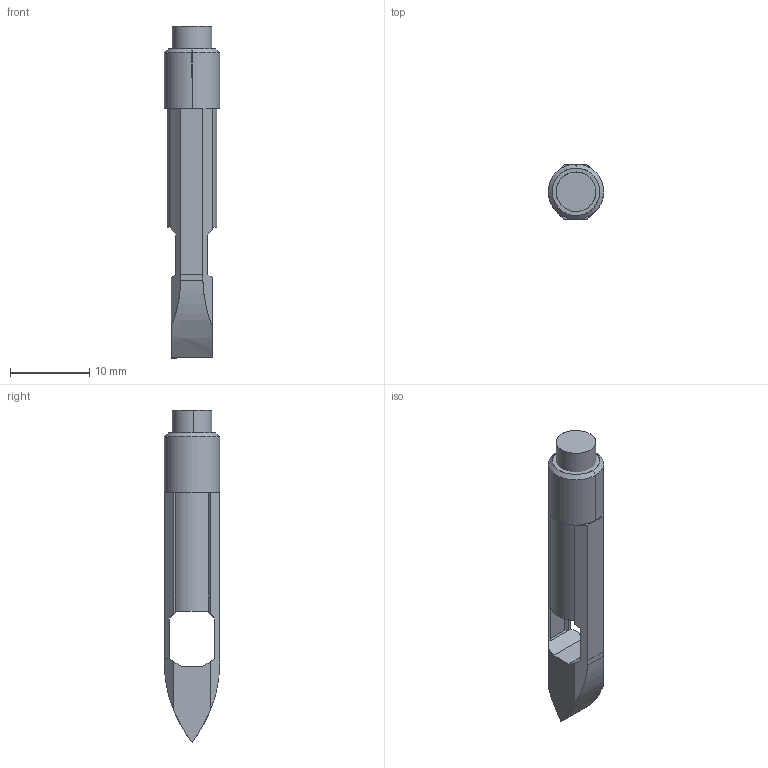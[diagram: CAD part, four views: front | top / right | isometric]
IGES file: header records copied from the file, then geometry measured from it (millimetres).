
Start section: SolidWorks IGES file using analytic representation for surfaces
Global section: file name: G:\Marl\DESIGN\Paul Robson\STEP-IGES FILES\258 Series\258 Series.IGS; native system: SolidWorks 2016; preprocessor: SolidWorks 2016; author: Paulr; date: 160804.102253; units: millimetre
Bounding box: 7 x 7 x 41.94 mm (x, y, z)
Surface area: 1826.8 mm2 (no closed solid volume)
Topology: 0 solids, 0 shells, 89 faces, 854 edges, 853 vertices
Faces by surface type: bspline 66, revolution 23
